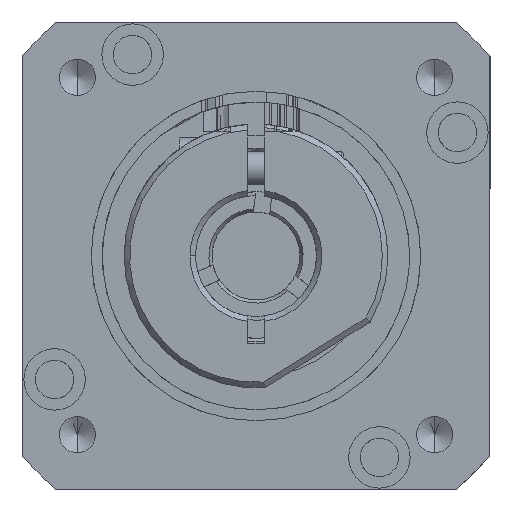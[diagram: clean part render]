
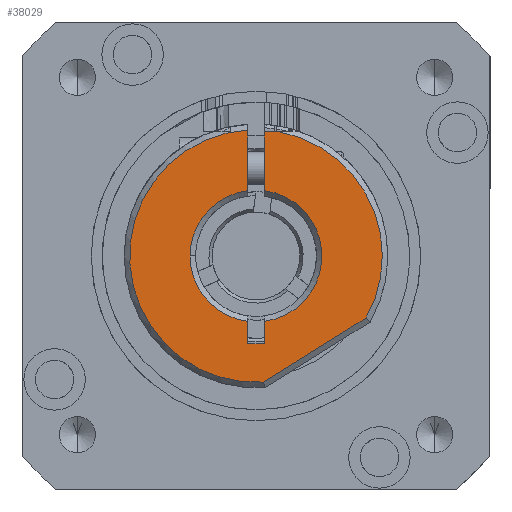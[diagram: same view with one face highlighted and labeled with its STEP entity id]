
A CAD part, left-side view. The second image highlights one B-rep face of the part: STEP entity #38029.
In plain terms, the highlighted planar face has unit normal (-1, 0, 0) as drawn and (0, -1, 0) by its records, which use the part's own axes.
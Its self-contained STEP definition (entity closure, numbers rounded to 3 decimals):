
#55 = CARTESIAN_POINT ( 'NONE',  ( 8., -4., 0. ) ) ;
#64 = CARTESIAN_POINT ( 'NONE',  ( -5.953, -4., 0.75 ) ) ;
#158 = DIRECTION ( 'NONE',  ( 0., 0., -1. ) ) ;
#224 = CARTESIAN_POINT ( 'NONE',  ( 8., -4., 0.75 ) ) ;
#229 = DIRECTION ( 'NONE',  ( 0., 0., -1. ) ) ;
#1659 = DIRECTION ( 'NONE',  ( -1., 0., 0. ) ) ;
#1680 = ORIENTED_EDGE ( 'NONE', *, *, #28295, .T. ) ;
#3100 = CARTESIAN_POINT ( 'NONE',  ( 8., -4., -0.75 ) ) ;
#3175 = ORIENTED_EDGE ( 'NONE', *, *, #8514, .T. ) ;
#3266 = CARTESIAN_POINT ( 'NONE',  ( 8., -4., -0.75 ) ) ;
#3720 = CARTESIAN_POINT ( 'NONE',  ( 5.5, -4., 0.762 ) ) ;
#3791 = ORIENTED_EDGE ( 'NONE', *, *, #4369, .T. ) ;
#3810 = LINE ( 'NONE', #8737, #22566 ) ;
#3950 = DIRECTION ( 'NONE',  ( -1., 0., 0. ) ) ;
#4369 = EDGE_CURVE ( 'NONE', #15684, #45974, #42297, .T. ) ;
#4881 = DIRECTION ( 'NONE',  ( 1., 0., 0. ) ) ;
#5248 = AXIS2_PLACEMENT_3D ( 'NONE', #16487, #42645, #20255 ) ;
#5303 = VECTOR ( 'NONE', #6366, 1000. ) ;
#6366 = DIRECTION ( 'NONE',  ( -0.53, 0., 0.848 ) ) ;
#7016 = ORIENTED_EDGE ( 'NONE', *, *, #25761, .T. ) ;
#7128 = CARTESIAN_POINT ( 'NONE',  ( 11.479, -4., 0.689 ) ) ;
#8514 = EDGE_CURVE ( 'NONE', #45489, #24925, #11567, .T. ) ;
#8573 = ORIENTED_EDGE ( 'NONE', *, *, #10211, .T. ) ;
#8582 = DIRECTION ( 'NONE',  ( 1., 0., 0. ) ) ;
#8672 = LINE ( 'NONE', #47439, #18638 ) ;
#8737 = CARTESIAN_POINT ( 'NONE',  ( -14.792, -4., 0.75 ) ) ;
#10211 = EDGE_CURVE ( 'NONE', #43100, #17741, #41888, .T. ) ;
#11567 = LINE ( 'NONE', #3266, #29153 ) ;
#13282 = CARTESIAN_POINT ( 'NONE',  ( 11.479, -4., 0.689 ) ) ;
#13589 = AXIS2_PLACEMENT_3D ( 'NONE', #17700, #47527, #25304 ) ;
#14413 = ORIENTED_EDGE ( 'NONE', *, *, #32285, .T. ) ;
#14649 = VERTEX_POINT ( 'NONE', #40408 ) ;
#14771 = CARTESIAN_POINT ( 'NONE',  ( -11.476, -4., 0.75 ) ) ;
#15684 = VERTEX_POINT ( 'NONE', #14771 ) ;
#16462 = VERTEX_POINT ( 'NONE', #224 ) ;
#16487 = CARTESIAN_POINT ( 'NONE',  ( 0., -4., 0. ) ) ;
#17604 = DIRECTION ( 'NONE',  ( 0., 0., -1. ) ) ;
#17700 = CARTESIAN_POINT ( 'NONE',  ( 5.5, -4., 0. ) ) ;
#17721 = CARTESIAN_POINT ( 'NONE',  ( -11.3, -4., 0. ) ) ;
#17741 = VERTEX_POINT ( 'NONE', #34844 ) ;
#18338 = CARTESIAN_POINT ( 'NONE',  ( -14.792, -4., 0.75 ) ) ;
#18638 = VECTOR ( 'NONE', #47600, 1000. ) ;
#18881 = CARTESIAN_POINT ( 'NONE',  ( -5.953, -4., -0.75 ) ) ;
#19569 = EDGE_LOOP ( 'NONE', ( #32637, #8573, #30336, #7016, #48328, #3791, #41091, #41628, #14413, #1680, #43252, #24092, #3175, #40774 ) ) ;
#19759 = DIRECTION ( 'NONE',  ( 0., 1., 0. ) ) ;
#19909 = VECTOR ( 'NONE', #17604, 1000. ) ;
#20255 = DIRECTION ( 'NONE',  ( -1., 0., 0. ) ) ;
#21195 = VECTOR ( 'NONE', #1659, 1000. ) ;
#21202 = VERTEX_POINT ( 'NONE', #3100 ) ;
#22381 = LINE ( 'NONE', #3720, #21195 ) ;
#22566 = VECTOR ( 'NONE', #8582, 1000. ) ;
#22615 = DIRECTION ( 'NONE',  ( 0., 1., 0. ) ) ;
#23091 = DIRECTION ( 'NONE',  ( -0.066, 0., -0.998 ) ) ;
#23180 = EDGE_CURVE ( 'NONE', #25254, #16462, #3810, .T. ) ;
#23386 = VERTEX_POINT ( 'NONE', #13282 ) ;
#23598 = VECTOR ( 'NONE', #4881, 1000. ) ;
#23933 = CIRCLE ( 'NONE', #5248, 11.5 ) ;
#24062 = CARTESIAN_POINT ( 'NONE',  ( 5.953, -4., 0.75 ) ) ;
#24092 = ORIENTED_EDGE ( 'NONE', *, *, #26322, .T. ) ;
#24162 = VERTEX_POINT ( 'NONE', #37544 ) ;
#24680 = CIRCLE ( 'NONE', #28697, 6. ) ;
#24925 = VERTEX_POINT ( 'NONE', #44284 ) ;
#25254 = VERTEX_POINT ( 'NONE', #24062 ) ;
#25261 = VECTOR ( 'NONE', #23091, 1000. ) ;
#25304 = DIRECTION ( 'NONE',  ( 0., 0., -1. ) ) ;
#25649 = DIRECTION ( 'NONE',  ( -1., 0., 0. ) ) ;
#25761 = EDGE_CURVE ( 'NONE', #41106, #14649, #22381, .T. ) ;
#25797 = DIRECTION ( 'NONE',  ( 0., -1., 0. ) ) ;
#25962 = CARTESIAN_POINT ( 'NONE',  ( 0., -4., 0. ) ) ;
#26322 = EDGE_CURVE ( 'NONE', #47459, #45489, #24680, .T. ) ;
#27117 = EDGE_CURVE ( 'NONE', #17741, #41106, #46143, .T. ) ;
#27434 = CARTESIAN_POINT ( 'NONE',  ( 5.651, -4., 10.016 ) ) ;
#28295 = EDGE_CURVE ( 'NONE', #21202, #24162, #8672, .T. ) ;
#28341 = CARTESIAN_POINT ( 'NONE',  ( 0., -4., -6. ) ) ;
#28697 = AXIS2_PLACEMENT_3D ( 'NONE', #34026, #33973, #33967 ) ;
#29153 = VECTOR ( 'NONE', #3950, 1000. ) ;
#29810 = AXIS2_PLACEMENT_3D ( 'NONE', #44948, #22615, #229 ) ;
#30336 = ORIENTED_EDGE ( 'NONE', *, *, #27117, .T. ) ;
#31265 = AXIS2_PLACEMENT_3D ( 'NONE', #25962, #25797, #25649 ) ;
#31881 = EDGE_CURVE ( 'NONE', #23386, #43100, #46211, .T. ) ;
#32257 = LINE ( 'NONE', #55, #34614 ) ;
#32285 = EDGE_CURVE ( 'NONE', #16462, #21202, #32257, .T. ) ;
#32637 = ORIENTED_EDGE ( 'NONE', *, *, #31881, .T. ) ;
#33779 = CIRCLE ( 'NONE', #29810, 6. ) ;
#33967 = DIRECTION ( 'NONE',  ( 0., 0., -1. ) ) ;
#33973 = DIRECTION ( 'NONE',  ( 0., 1., 0. ) ) ;
#34026 = CARTESIAN_POINT ( 'NONE',  ( 0., -4., 0. ) ) ;
#34614 = VECTOR ( 'NONE', #158, 1000. ) ;
#34844 = CARTESIAN_POINT ( 'NONE',  ( -11.3, -4., 2.135 ) ) ;
#35191 = LINE ( 'NONE', #45410, #25261 ) ;
#35963 = EDGE_CURVE ( 'NONE', #24162, #47459, #41354, .T. ) ;
#37544 = CARTESIAN_POINT ( 'NONE',  ( 5.953, -4., -0.75 ) ) ;
#37820 = CARTESIAN_POINT ( 'NONE',  ( -11.3, -4., 0.762 ) ) ;
#38029 = ADVANCED_FACE ( 'NONE', ( #38389 ), #43848, .T. ) ;
#38389 = FACE_OUTER_BOUND ( 'NONE', #19569, .T. ) ;
#40408 = CARTESIAN_POINT ( 'NONE',  ( -11.475, -4., 0.762 ) ) ;
#40774 = ORIENTED_EDGE ( 'NONE', *, *, #44041, .T. ) ;
#41091 = ORIENTED_EDGE ( 'NONE', *, *, #45977, .T. ) ;
#41106 = VERTEX_POINT ( 'NONE', #37820 ) ;
#41141 = EDGE_CURVE ( 'NONE', #14649, #15684, #35191, .T. ) ;
#41354 = CIRCLE ( 'NONE', #45128, 6. ) ;
#41628 = ORIENTED_EDGE ( 'NONE', *, *, #23180, .T. ) ;
#41888 = CIRCLE ( 'NONE', #31265, 11.5 ) ;
#42170 = CARTESIAN_POINT ( 'NONE',  ( 0., -4., 0. ) ) ;
#42297 = LINE ( 'NONE', #18338, #23598 ) ;
#42645 = DIRECTION ( 'NONE',  ( 0., -1., 0. ) ) ;
#43100 = VERTEX_POINT ( 'NONE', #27434 ) ;
#43252 = ORIENTED_EDGE ( 'NONE', *, *, #35963, .T. ) ;
#43848 = PLANE ( 'NONE',  #13589 ) ;
#44041 = EDGE_CURVE ( 'NONE', #24925, #23386, #23933, .T. ) ;
#44284 = CARTESIAN_POINT ( 'NONE',  ( -11.476, -4., -0.75 ) ) ;
#44948 = CARTESIAN_POINT ( 'NONE',  ( 0., -4., 0. ) ) ;
#45128 = AXIS2_PLACEMENT_3D ( 'NONE', #42170, #19759, #45848 ) ;
#45410 = CARTESIAN_POINT ( 'NONE',  ( -11.475, -4., 0.762 ) ) ;
#45489 = VERTEX_POINT ( 'NONE', #18881 ) ;
#45848 = DIRECTION ( 'NONE',  ( 0., 0., -1. ) ) ;
#45974 = VERTEX_POINT ( 'NONE', #64 ) ;
#45977 = EDGE_CURVE ( 'NONE', #45974, #25254, #33779, .T. ) ;
#46143 = LINE ( 'NONE', #17721, #19909 ) ;
#46211 = LINE ( 'NONE', #7128, #5303 ) ;
#47439 = CARTESIAN_POINT ( 'NONE',  ( 8., -4., -0.75 ) ) ;
#47459 = VERTEX_POINT ( 'NONE', #28341 ) ;
#47527 = DIRECTION ( 'NONE',  ( 0., -1., 0. ) ) ;
#47600 = DIRECTION ( 'NONE',  ( -1., 0., 0. ) ) ;
#48328 = ORIENTED_EDGE ( 'NONE', *, *, #41141, .T. ) ;
